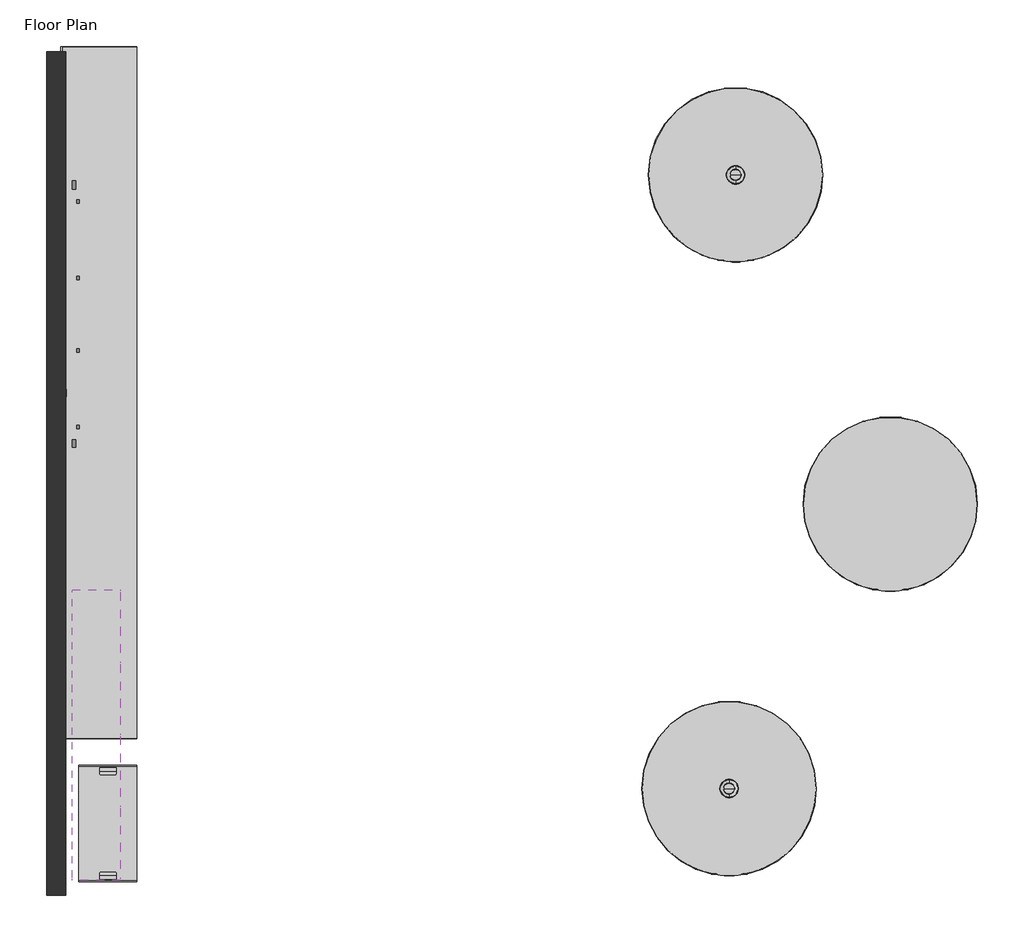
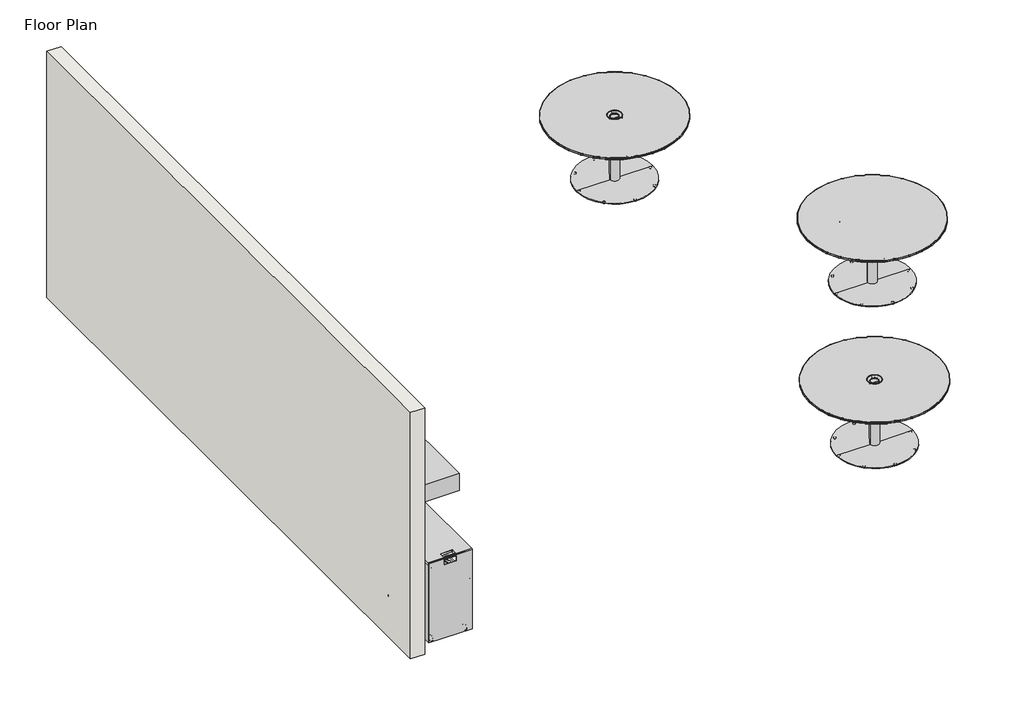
# One storey, incomplete: 8 furniture elements, 1 wall.
"""IFC4 building model written with IfcOpenShell, lengths in millimetres."""

from ifc_helpers import new_model, si_unit, origin, origin_with_axes, place, context, project, spatial, polyline, outline, extrude, transform, mapped, element, save
from components import furniture_c3c61172, furniture_9ac325f6, furniture_4dd13a8e, furniture_9b227c38, furniture_3_opening_07100883, furniture_3_opening_457c4e11, steelcase_media_scape_wall_mounted_shroud_8cf0ba45, counter_support_counter_support_e094c8d8

model = new_model("IFC4")

# Units and contexts
model_context = context("Model", 3, world=origin())
ifc_project = project(units=[si_unit("LENGTHUNIT", "METRE", prefix="MILLI")], contexts=[model_context])

# Site, building, storey
site = spatial("IfcSite", under=ifc_project)
building = spatial("IfcBuilding", under=site)
storey = spatial("IfcBuildingStorey", under=building, Name="Floor Plan", Elevation=0.0)

# Furniture
placement = place(None, origin())
furniture_shape = furniture_c3c61172(model_context)
element("IfcFurniture", 1, ObjectType="Steelcase - Universal Systems Worksurface - Straight - 0.5'' Cord Drop - 3mm Edge : 23 1/2'' x 96'' special", at=placement, inside=storey, context=model_context, shape_type="MappedRepresentation", body=[
    mapped(furniture_shape, transform((-3118.0460716, -57744.4833456, 185.8009651), x_axis=(0.0, 1.0, 0.0), y_axis=(-1.0, 0.0, 0.0), z_axis=(0.0, 0.0, 1.0))),
])
furniture_2_shape = furniture_9ac325f6(model_context)
element("IfcFurniture", 2, ObjectType="Steelcase Coalesse - Montara650 - Table - Work Height - Round : 54'' Diameter", at=placement, inside=storey, context=model_context, shape_type="MappedRepresentation", body=[
    mapped(furniture_2_shape, transform((2185.6039378, -53312.1405735, 0.0), x_axis=(1.0, 0.0, 0.0), y_axis=(0.0, 1.0, 0.0), z_axis=(0.0, 0.0, 1.0))),
])
element("IfcFurniture", 3, ObjectType="Steelcase Coalesse - Montara650 - Table - Work Height - Round : 54'' Diameter", at=placement, inside=storey, context=model_context, shape_type="MappedRepresentation", body=[
    mapped(furniture_2_shape, transform((2134.8039378, -58137.2820393, 0.0), x_axis=(1.0, 0.0, 0.0), y_axis=(0.0, 1.0, 0.0), z_axis=(0.0, 0.0, 1.0))),
])
furniture_3_shape = furniture_4dd13a8e(model_context)
element("IfcFurniture", 4, ObjectType="Steelcase Coalesse - Montara650 - Table - Work Height - Round : 54'' Diameter", at=placement, inside=storey, context=model_context, shape_type="MappedRepresentation", body=[
    mapped(furniture_3_shape, transform((3401.9108626, -55900.5414157, 0.0), x_axis=(1.0, 0.0, 0.0), y_axis=(0.0, 1.0, 0.0), z_axis=(0.0, 0.0, 1.0))),
])
furniture_4_shape = furniture_9b227c38(model_context)
element("IfcFurniture", 5, ObjectType="Steelcase - Elective Elements - Shelf - Organizer with Divider : 15\" D x 90\" W", at=placement, inside=storey, context=model_context, shape_type="MappedRepresentation", body=[
    mapped(furniture_4_shape, transform((-2971.9960537, -58858.177963, 0.0), x_axis=(0.0, 1.0000000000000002, 0.0), y_axis=(-1.0000000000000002, 0.0, 0.0), z_axis=(0.0, 0.0, 1.0))),
])
furniture_3_opening_shape = furniture_3_opening_07100883(model_context)
furniture_3_opening_2_shape = furniture_3_opening_457c4e11(model_context)
element("IfcFurniture", 6, ObjectType="Steelcase - Victor2 - Mobile Unit : 3 Opening", at=placement, inside=storey, context=model_context, shape_type="MappedRepresentation", body=[
    mapped(furniture_3_opening_shape, transform((-2978.3460716, -58868.7761435, 0.0), x_axis=(0.0, 1.0000000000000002, 0.0), y_axis=(-1.0000000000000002, 0.0, 0.0), z_axis=(0.0, 0.0, 1.0))),
    mapped(furniture_3_opening_2_shape, transform((-2978.3460716, -58868.7761435, 0.0), x_axis=(0.0, 1.0000000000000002, 0.0), y_axis=(-1.0000000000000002, 0.0, 0.0), z_axis=(0.0, 0.0, 1.0))),
])
steelcase_media_scape_wall_mounted_shroud_shape = steelcase_media_scape_wall_mounted_shroud_8cf0ba45(model_context)
element("IfcFurniture", 7, ObjectType="Steelcase - Media Scape - Wall-Mounted Shroud : Dual - 46''", at=placement, inside=storey, context=model_context, shape_type="MappedRepresentation", body=[
    mapped(steelcase_media_scape_wall_mounted_shroud_shape, transform((-3029.1454655, -54407.7449747, 152.4), x_axis=(0.0, 1.0000000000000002, 0.0), y_axis=(-1.0000000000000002, 0.0, 0.0), z_axis=(0.0, 0.0, 1.0))),
])
counter_support_counter_support_shape = counter_support_counter_support_e094c8d8(model_context)
element("IfcFurniture", 8, ObjectType="counter support : counter support", at=placement, inside=storey, context=model_context, shape_type="MappedRepresentation", body=[
    mapped(counter_support_counter_support_shape, transform((0.0, 0.0, 0.0), x_axis=(1.0, 0.0, 0.0), y_axis=(0.0, 1.0, 0.0), z_axis=(0.0, 0.0, 1.0))),
])

# Wall
element("IfcWall", 9, ObjectType="Basic wall", at=placement, inside=storey, context=model_context, shape_type="SweptSolid", body=[
    extrude(outline(polyline([(-3232.3460537, -58974.9051846), (-3232.3460537, -52345.5051846), (-3079.9460537, -52345.5051846), (-3079.9460537, -58974.9051846), (-3232.3460537, -58974.9051846)])), origin_with_axes(), (0.0, 0.0, 1.0), 2743.2),
])

save(model, "model.ifc")
